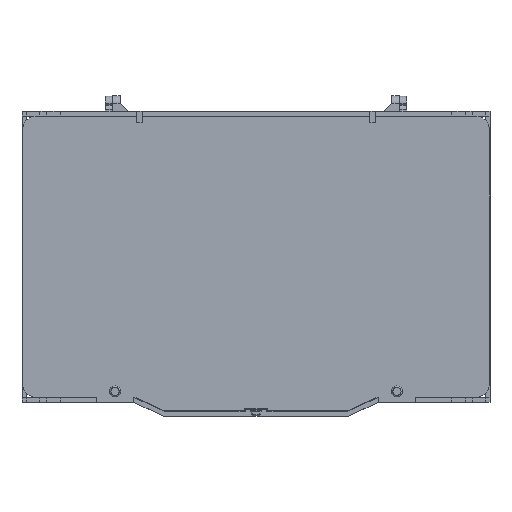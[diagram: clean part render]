
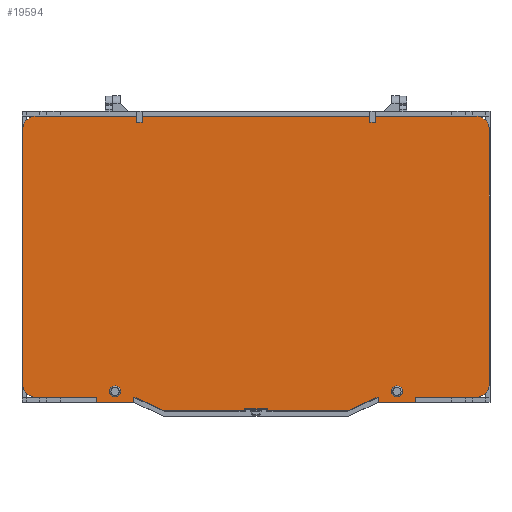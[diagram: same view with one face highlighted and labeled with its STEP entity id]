
A CAD part, top view. The second image highlights one B-rep face of the part: STEP entity #19594.
In plain terms, the highlighted planar face has unit normal (0, 0, 1).
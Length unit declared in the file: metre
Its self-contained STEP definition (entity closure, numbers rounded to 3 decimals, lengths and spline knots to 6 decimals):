
#530=CIRCLE('',#26402,0.002);
#532=CIRCLE('',#26406,0.002);
#534=CIRCLE('',#26409,0.005);
#535=CIRCLE('',#26410,0.005);
#536=CIRCLE('',#26411,0.005);
#537=CIRCLE('',#26412,0.005);
#6068=ORIENTED_EDGE('',*,*,#8744,.T.);
#6069=ORIENTED_EDGE('',*,*,#8806,.T.);
#6070=ORIENTED_EDGE('',*,*,#8746,.T.);
#6071=ORIENTED_EDGE('',*,*,#8807,.T.);
#6072=ORIENTED_EDGE('',*,*,#8750,.F.);
#6073=ORIENTED_EDGE('',*,*,#8756,.F.);
#6074=ORIENTED_EDGE('',*,*,#8759,.F.);
#6075=ORIENTED_EDGE('',*,*,#8762,.T.);
#6076=ORIENTED_EDGE('',*,*,#8765,.F.);
#6077=ORIENTED_EDGE('',*,*,#8768,.F.);
#6078=ORIENTED_EDGE('',*,*,#8771,.F.);
#6079=ORIENTED_EDGE('',*,*,#8774,.F.);
#6080=ORIENTED_EDGE('',*,*,#8777,.T.);
#6081=ORIENTED_EDGE('',*,*,#8780,.T.);
#6082=ORIENTED_EDGE('',*,*,#8783,.F.);
#6083=ORIENTED_EDGE('',*,*,#8786,.F.);
#6084=ORIENTED_EDGE('',*,*,#8789,.F.);
#6085=ORIENTED_EDGE('',*,*,#8792,.F.);
#6086=ORIENTED_EDGE('',*,*,#8795,.T.);
#6087=ORIENTED_EDGE('',*,*,#8798,.T.);
#6088=ORIENTED_EDGE('',*,*,#8803,.F.);
#6089=ORIENTED_EDGE('',*,*,#8808,.T.);
#6090=ORIENTED_EDGE('',*,*,#8740,.F.);
#6091=ORIENTED_EDGE('',*,*,#8809,.T.);
#6092=ORIENTED_EDGE('',*,*,#8799,.F.);
#6093=ORIENTED_EDGE('',*,*,#8804,.F.);
#8740=EDGE_CURVE('',#10554,#10555,#12710,.T.);
#8744=EDGE_CURVE('',#10559,#10558,#12714,.T.);
#8746=EDGE_CURVE('',#10560,#10561,#12716,.T.);
#8750=EDGE_CURVE('',#10564,#10565,#12720,.T.);
#8756=EDGE_CURVE('',#10569,#10564,#12726,.T.);
#8759=EDGE_CURVE('',#10571,#10569,#12729,.T.);
#8762=EDGE_CURVE('',#10571,#10573,#12732,.T.);
#8765=EDGE_CURVE('',#10575,#10573,#12735,.T.);
#8768=EDGE_CURVE('',#10577,#10575,#12738,.T.);
#8771=EDGE_CURVE('',#10579,#10577,#12741,.T.);
#8774=EDGE_CURVE('',#10581,#10579,#12744,.T.);
#8777=EDGE_CURVE('',#10581,#10583,#12747,.T.);
#8780=EDGE_CURVE('',#10583,#10585,#12750,.T.);
#8783=EDGE_CURVE('',#10587,#10585,#12753,.T.);
#8786=EDGE_CURVE('',#10589,#10587,#12756,.T.);
#8789=EDGE_CURVE('',#10591,#10589,#12759,.T.);
#8792=EDGE_CURVE('',#10593,#10591,#12762,.T.);
#8795=EDGE_CURVE('',#10593,#10595,#12765,.T.);
#8798=EDGE_CURVE('',#10595,#10597,#12768,.T.);
#8799=EDGE_CURVE('',#10598,#10598,#530,.T.);
#8803=EDGE_CURVE('',#10601,#10597,#12771,.T.);
#8804=EDGE_CURVE('',#10602,#10602,#532,.T.);
#8806=EDGE_CURVE('',#10558,#10560,#534,.T.);
#8807=EDGE_CURVE('',#10561,#10565,#535,.T.);
#8808=EDGE_CURVE('',#10601,#10555,#536,.T.);
#8809=EDGE_CURVE('',#10554,#10559,#537,.T.);
#10554=VERTEX_POINT('',#36713);
#10555=VERTEX_POINT('',#36715);
#10558=VERTEX_POINT('',#36722);
#10559=VERTEX_POINT('',#36724);
#10560=VERTEX_POINT('',#36728);
#10561=VERTEX_POINT('',#36729);
#10564=VERTEX_POINT('',#36737);
#10565=VERTEX_POINT('',#36738);
#10569=VERTEX_POINT('',#36748);
#10571=VERTEX_POINT('',#36754);
#10573=VERTEX_POINT('',#36760);
#10575=VERTEX_POINT('',#36766);
#10577=VERTEX_POINT('',#36772);
#10579=VERTEX_POINT('',#36778);
#10581=VERTEX_POINT('',#36784);
#10583=VERTEX_POINT('',#36790);
#10585=VERTEX_POINT('',#36796);
#10587=VERTEX_POINT('',#36802);
#10589=VERTEX_POINT('',#36808);
#10591=VERTEX_POINT('',#36814);
#10593=VERTEX_POINT('',#36820);
#10595=VERTEX_POINT('',#36826);
#10597=VERTEX_POINT('',#36832);
#10598=VERTEX_POINT('',#36836);
#10601=VERTEX_POINT('',#36843);
#10602=VERTEX_POINT('',#36847);
#12710=LINE('',#36714,#14878);
#12714=LINE('',#36723,#14882);
#12716=LINE('',#36727,#14884);
#12720=LINE('',#36736,#14888);
#12726=LINE('',#36749,#14894);
#12729=LINE('',#36755,#14897);
#12732=LINE('',#36761,#14900);
#12735=LINE('',#36767,#14903);
#12738=LINE('',#36773,#14906);
#12741=LINE('',#36779,#14909);
#12744=LINE('',#36785,#14912);
#12747=LINE('',#36791,#14915);
#12750=LINE('',#36797,#14918);
#12753=LINE('',#36803,#14921);
#12756=LINE('',#36809,#14924);
#12759=LINE('',#36815,#14927);
#12762=LINE('',#36821,#14930);
#12765=LINE('',#36827,#14933);
#12768=LINE('',#36833,#14936);
#12771=LINE('',#36844,#14939);
#14878=VECTOR('',#31305,1.);
#14882=VECTOR('',#31311,1.);
#14884=VECTOR('',#31315,1.);
#14888=VECTOR('',#31321,1.);
#14894=VECTOR('',#31329,1.);
#14897=VECTOR('',#31334,1.);
#14900=VECTOR('',#31339,1.);
#14903=VECTOR('',#31344,1.);
#14906=VECTOR('',#31349,1.);
#14909=VECTOR('',#31354,1.);
#14912=VECTOR('',#31359,1.);
#14915=VECTOR('',#31364,1.);
#14918=VECTOR('',#31369,1.);
#14921=VECTOR('',#31374,1.);
#14924=VECTOR('',#31379,1.);
#14927=VECTOR('',#31384,1.);
#14930=VECTOR('',#31389,1.);
#14933=VECTOR('',#31394,1.);
#14936=VECTOR('',#31399,1.);
#14939=VECTOR('',#31410,1.);
#16012=EDGE_LOOP('',(#6068,#6069,#6070,#6071,#6072,#6073,#6074,#6075,#6076,
#6077,#6078,#6079,#6080,#6081,#6082,#6083,#6084,#6085,#6086,#6087,#6088,
#6089,#6090,#6091));
#16013=EDGE_LOOP('',(#6092));
#16014=EDGE_LOOP('',(#6093));
#17094=FACE_BOUND('',#16012,.T.);
#17095=FACE_BOUND('',#16013,.T.);
#17096=FACE_BOUND('',#16014,.T.);
#17779=PLANE('',#26408);
#19594=ADVANCED_FACE('',(#17094,#17095,#17096),#17779,.T.);
#26402=AXIS2_PLACEMENT_3D('',#36835,#31402,#31403);
#26406=AXIS2_PLACEMENT_3D('',#36846,#31413,#31414);
#26408=AXIS2_PLACEMENT_3D('',#36850,#31417,#31418);
#26409=AXIS2_PLACEMENT_3D('',#36851,#31419,#31420);
#26410=AXIS2_PLACEMENT_3D('',#36852,#31421,#31422);
#26411=AXIS2_PLACEMENT_3D('',#36853,#31423,#31424);
#26412=AXIS2_PLACEMENT_3D('',#36854,#31425,#31426);
#31305=DIRECTION('',(0.,-1.,0.));
#31311=DIRECTION('',(-1.,0.,0.));
#31315=DIRECTION('',(0.,-1.,0.));
#31321=DIRECTION('',(-1.,0.,0.));
#31329=DIRECTION('',(0.,1.,0.));
#31334=DIRECTION('',(-1.,0.,0.));
#31339=DIRECTION('',(0.,1.,0.));
#31344=DIRECTION('',(-1.,0.,0.));
#31349=DIRECTION('',(-0.906,0.423,0.));
#31354=DIRECTION('',(-1.,0.,0.));
#31359=DIRECTION('',(0.,-1.,0.));
#31364=DIRECTION('',(1.,0.,0.));
#31369=DIRECTION('',(0.,-1.,0.));
#31374=DIRECTION('',(-1.,0.,0.));
#31379=DIRECTION('',(-0.906,-0.423,0.));
#31384=DIRECTION('',(-1.,0.,0.));
#31389=DIRECTION('',(0.,1.,0.));
#31394=DIRECTION('',(1.,0.,0.));
#31399=DIRECTION('',(0.,1.,0.));
#31402=DIRECTION('',(0.,0.,1.));
#31403=DIRECTION('',(1.,0.,0.));
#31410=DIRECTION('',(-1.,0.,0.));
#31413=DIRECTION('',(0.,0.,1.));
#31414=DIRECTION('',(1.,0.,0.));
#31417=DIRECTION('',(0.,0.,1.));
#31418=DIRECTION('',(1.,0.,0.));
#31419=DIRECTION('',(0.,0.,1.));
#31420=DIRECTION('',(1.,0.,0.));
#31421=DIRECTION('',(0.,0.,1.));
#31422=DIRECTION('',(1.,0.,0.));
#31423=DIRECTION('',(0.,0.,1.));
#31424=DIRECTION('',(1.,0.,0.));
#31425=DIRECTION('',(0.,0.,1.));
#31426=DIRECTION('',(1.,0.,0.));
#36713=CARTESIAN_POINT('',(0.085301,0.047608,0.0082));
#36714=CARTESIAN_POINT('',(0.085301,0.001236,0.0082));
#36715=CARTESIAN_POINT('',(0.085301,-0.045135,0.0082));
#36722=CARTESIAN_POINT('',(-0.080301,0.052608,0.0082));
#36723=CARTESIAN_POINT('',(0.,0.052608,0.0082));
#36724=CARTESIAN_POINT('',(0.080301,0.052608,0.0082));
#36727=CARTESIAN_POINT('',(-0.085301,0.001236,0.0082));
#36728=CARTESIAN_POINT('',(-0.085301,0.047608,0.0082));
#36729=CARTESIAN_POINT('',(-0.085301,-0.045135,0.0082));
#36736=CARTESIAN_POINT('',(-0.071759,-0.050135,0.0082));
#36737=CARTESIAN_POINT('',(-0.058217,-0.050135,0.0082));
#36738=CARTESIAN_POINT('',(-0.080301,-0.050135,0.0082));
#36748=CARTESIAN_POINT('',(-0.058217,-0.051992,0.0082));
#36749=CARTESIAN_POINT('',(-0.058217,-0.050214,0.0082));
#36754=CARTESIAN_POINT('',(-0.044783,-0.051992,0.0082));
#36755=CARTESIAN_POINT('',(-0.0515,-0.051992,0.0082));
#36760=CARTESIAN_POINT('',(-0.044783,-0.050135,0.0082));
#36761=CARTESIAN_POINT('',(-0.044783,-0.050214,0.0082));
#36766=CARTESIAN_POINT('',(-0.044214,-0.050135,0.0082));
#36767=CARTESIAN_POINT('',(-0.044498,-0.050135,0.0082));
#36772=CARTESIAN_POINT('',(-0.033491,-0.055135,0.0082));
#36773=CARTESIAN_POINT('',(-0.038853,-0.052635,0.0082));
#36778=CARTESIAN_POINT('',(-0.004157,-0.055135,0.0082));
#36779=CARTESIAN_POINT('',(-0.018824,-0.055135,0.0082));
#36784=CARTESIAN_POINT('',(-0.004157,-0.054335,0.0082));
#36785=CARTESIAN_POINT('',(-0.004157,-0.054735,0.0082));
#36790=CARTESIAN_POINT('',(0.004157,-0.054335,0.0082));
#36791=CARTESIAN_POINT('',(0.,-0.054335,0.0082));
#36796=CARTESIAN_POINT('',(0.004157,-0.055135,0.0082));
#36797=CARTESIAN_POINT('',(0.004157,-0.054735,0.0082));
#36802=CARTESIAN_POINT('',(0.033491,-0.055135,0.0082));
#36803=CARTESIAN_POINT('',(0.018824,-0.055135,0.0082));
#36808=CARTESIAN_POINT('',(0.044214,-0.050135,0.0082));
#36809=CARTESIAN_POINT('',(0.038853,-0.052635,0.0082));
#36814=CARTESIAN_POINT('',(0.044783,-0.050135,0.0082));
#36815=CARTESIAN_POINT('',(0.044498,-0.050135,0.0082));
#36820=CARTESIAN_POINT('',(0.044783,-0.051992,0.0082));
#36821=CARTESIAN_POINT('',(0.044783,-0.050214,0.0082));
#36826=CARTESIAN_POINT('',(0.058217,-0.051992,0.0082));
#36827=CARTESIAN_POINT('',(0.0515,-0.051992,0.0082));
#36832=CARTESIAN_POINT('',(0.058217,-0.050135,0.0082));
#36833=CARTESIAN_POINT('',(0.058217,-0.050214,0.0082));
#36835=CARTESIAN_POINT('',(-0.0515,-0.047992,0.0082));
#36836=CARTESIAN_POINT('',(-0.0495,-0.047992,0.0082));
#36843=CARTESIAN_POINT('',(0.080301,-0.050135,0.0082));
#36844=CARTESIAN_POINT('',(0.071759,-0.050135,0.0082));
#36846=CARTESIAN_POINT('',(0.0515,-0.047992,0.0082));
#36847=CARTESIAN_POINT('',(0.0535,-0.047992,0.0082));
#36850=CARTESIAN_POINT('',(0.,-0.001264,0.0082));
#36851=CARTESIAN_POINT('',(-0.080301,0.047608,0.0082));
#36852=CARTESIAN_POINT('',(-0.080301,-0.045135,0.0082));
#36853=CARTESIAN_POINT('',(0.080301,-0.045135,0.0082));
#36854=CARTESIAN_POINT('',(0.080301,0.047608,0.0082));
